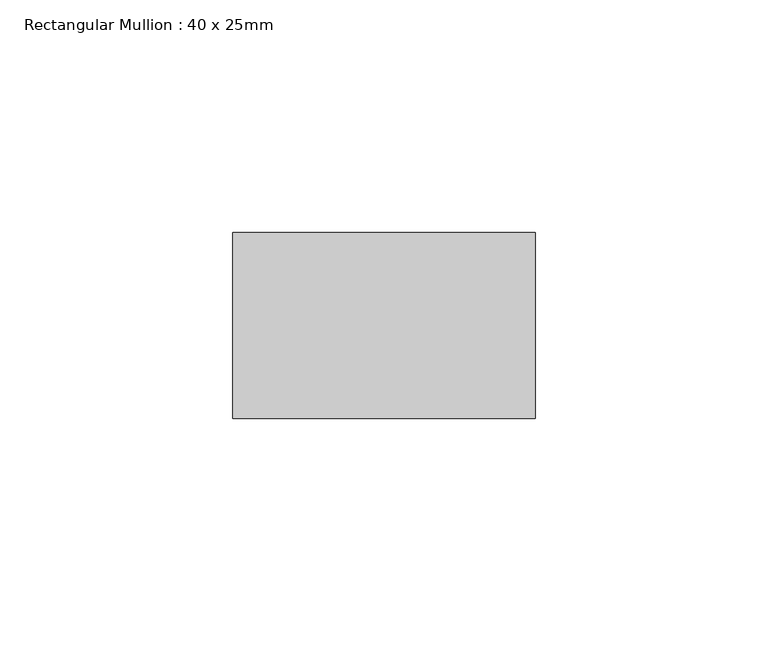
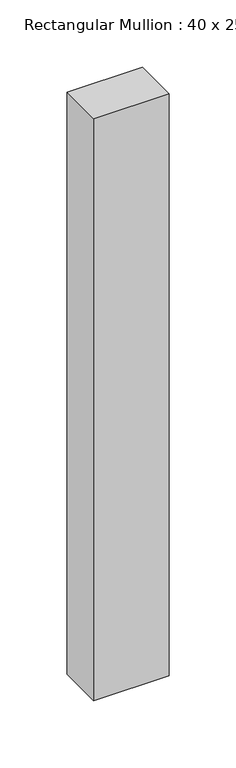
"""IFC4 building model written with IfcOpenShell, lengths in millimetres: member geometry, Rectangular Mullion : 40 x 25mm."""

from ifc_helpers import new_model, si_unit, frame, origin, place, context, project, spatial, polyline, outline, extrude, source, transform, mapped, element, save


def rectangular_mullion_40_x_25mm_a9789b3b(model_context):
    return source(origin(), model_context, "Body", "SweptSolid", [
        extrude(outline(polyline([(0.0, -20.0), (0.0, -60.0), (-65.0, -60.0), (-65.0, -20.0), (0.0, -20.0)])), frame((0.0, 0.0, -530.0), z_axis=(0.0, 0.0, 1.0), x_axis=(1.0, 0.0, 0.0)), (0.0, 0.0, 1.0), 530.0),
    ])


if __name__ == "__main__":
    model = new_model("IFC4")
    model_context = context("Model", 3, world=origin())
    ifc_project = project(units=[si_unit("LENGTHUNIT", "METRE", prefix="MILLI")], contexts=[model_context])
    site = spatial("IfcSite", under=ifc_project)
    building = spatial("IfcBuilding", under=site)
    placement = place(None, origin())
    rectangular_mullion_40_x_25mm_shape = rectangular_mullion_40_x_25mm_a9789b3b(model_context)
    element("IfcMember", 1, ObjectType="Rectangular Mullion : 40 x 25mm", at=placement, inside=building, context=model_context, shape_type="MappedRepresentation", body=[
        mapped(rectangular_mullion_40_x_25mm_shape, transform((0.0, 0.0, 0.0), x_axis=(1.0, 0.0, 0.0), y_axis=(0.0, 1.0, 0.0), z_axis=(0.0, 0.0, 1.0))),
    ])
    save(model, "model.ifc")
